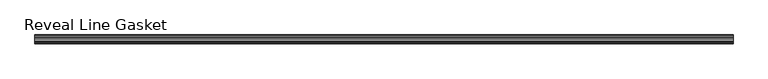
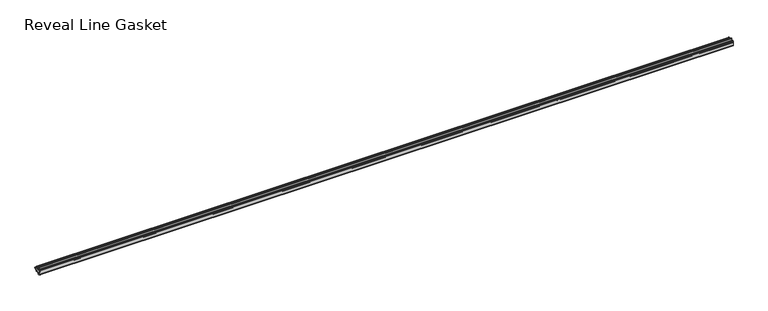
"""IFC4 building model written with IfcOpenShell, lengths in millimetres: proxy geometry, Accessories-Teknion-FHGR-AI_Healthcare-Reveal_Line_Gasket(Horizontal)-R2022 : Reveal Line Gasket."""

import ifcopenshell
import ifcopenshell.guid

model = None  # the IFC model being written
_history = None  # IfcOwnerHistory: only IFC2X3 demands one
_inside = {}  # id of a spatial element -> (the spatial element, [elements in it])
_under = {}  # id of a project, library or spatial element -> (it, [spatial elements below it])
_declared = {}  # id of a project -> (the project, [libraries it declares])
_typed = {}  # id of a type object -> (the type object, [elements of that type])
_made_of = {}  # id of a material, layer set ... -> (it, [elements and type objects made of it])


def new_model(schema):
    """Start an empty IFC model of exactly this schema.

    Asked for "IFC4X3", IfcOpenShell would pick the latest addendum, in which some entities
    have other attributes; the version numbers below select the first issue.
    IFC2X3 requires an IfcOwnerHistory on every rooted entity: one is made here for all.
    """
    global model, _history
    if schema == "IFC4X3":
        model = ifcopenshell.file(schema_version=(4, 3, 0, 0))
    else:
        model = ifcopenshell.file(schema=schema)
    _inside.clear()
    _under.clear()
    _declared.clear()
    _typed.clear()
    _made_of.clear()
    _history = None
    if model.schema == "IFC2X3":
        org = make("IfcOrganization", Name="unknown")
        user = make(
            "IfcPersonAndOrganization",
            ThePerson=make("IfcPerson", FamilyName="unknown"),
            TheOrganization=org,
        )
        app = make(
            "IfcApplication",
            ApplicationDeveloper=org,
            Version="unknown",
            ApplicationFullName="unknown",
            ApplicationIdentifier="unknown",
        )
        _history = make(
            "IfcOwnerHistory",
            OwningUser=user,
            OwningApplication=app,
            ChangeAction="ADDED",
            CreationDate=0,
        )
    return model


def make(cls, **values):
    """One entity of the class cls with the attributes given. An attribute that is None is left unset."""
    return model.create_entity(
        cls, **{name: value for name, value in values.items() if value is not None}
    )


def rooted(cls, **values):
    """An entity with a GlobalId (a new one), such as an element, a storey or a relation."""
    return make(cls, GlobalId=ifcopenshell.guid.new(), OwnerHistory=_history, **values)


def si_unit(unit_type, name, prefix=None):
    """IfcSIUnit, for example si_unit("LENGTHUNIT", "METRE", prefix="MILLI")."""
    return make("IfcSIUnit", UnitType=unit_type, Prefix=prefix, Name=name)


def assignment(units):
    """IfcUnitAssignment: the units of a project."""
    return None if units is None else make("IfcUnitAssignment", Units=units)


def point(xyz):
    """IfcCartesianPoint."""
    return None if xyz is None else make("IfcCartesianPoint", Coordinates=xyz)


def direction(xyz):
    """IfcDirection."""
    return None if xyz is None else make("IfcDirection", DirectionRatios=xyz)


def frame(location, z_axis=None, x_axis=None):
    """IfcAxis2Placement3D, a coordinate frame: its origin and axes. An axis left out is left unset."""
    return make(
        "IfcAxis2Placement3D",
        Location=point(location),
        Axis=direction(z_axis),
        RefDirection=direction(x_axis),
    )


def frame_2d(location, x_axis=None):
    """IfcAxis2Placement2D, a coordinate frame in the plane: its origin and x axis."""
    return make(
        "IfcAxis2Placement2D", Location=point(location), RefDirection=direction(x_axis)
    )


def origin():
    """The frame at (0, 0, 0) with its axes left unset."""
    return frame((0.0, 0.0, 0.0))


def place(relative_to, where):
    """IfcLocalPlacement: puts the frame where relative to a parent placement (None: the world)."""
    return make(
        "IfcLocalPlacement", PlacementRelTo=relative_to, RelativePlacement=where
    )


def context(
    kind, dimensions, precision=None, world=None, true_north=None, identifier=None
):
    """IfcGeometricRepresentationContext, for example the 3D "Model" context."""
    return make(
        "IfcGeometricRepresentationContext",
        ContextIdentifier=identifier,
        ContextType=kind,
        CoordinateSpaceDimension=dimensions,
        Precision=precision,
        WorldCoordinateSystem=world,
        TrueNorth=true_north,
    )


def project(units=None, contexts=None):
    """IfcProject with its units and contexts."""
    return rooted(
        "IfcProject",
        Name="project",
        RepresentationContexts=contexts,
        UnitsInContext=assignment(units),
    )


def spatial(cls, under=None, at=None, **own):
    """A site, building, storey or space (cls), placed at a placement, below another one or the project."""
    s = rooted(cls, ObjectPlacement=at, **own)
    if under is not None:
        _under.setdefault(under.id(), (under, []))[1].append(s)
    return s


def polyline(points):
    """IfcPolyline through the points."""
    return make("IfcPolyline", Points=[point(p) for p in points])


def circle_curve(where, radius):
    """IfcCircle in the frame where."""
    return make("IfcCircle", Position=where, Radius=radius)


def trimmed(basis, trim1, trim2, sense, master):
    """IfcTrimmedCurve: the piece of a basis curve between two trims."""
    return make(
        "IfcTrimmedCurve",
        BasisCurve=basis,
        Trim1=trim1,
        Trim2=trim2,
        SenseAgreement=sense,
        MasterRepresentation=master,
    )


def segment(curve, same_sense, transition):
    """IfcCompositeCurveSegment."""
    return make(
        "IfcCompositeCurveSegment",
        Transition=transition,
        SameSense=same_sense,
        ParentCurve=curve,
    )


def composite_curve(segments, self_intersect=None):
    """IfcCompositeCurve: segments joined end to end."""
    return make("IfcCompositeCurve", Segments=segments, SelfIntersect=self_intersect)


def outline(outer, holes=None, kind="AREA"):
    """IfcArbitraryClosedProfileDef: a profile drawn as a closed curve; with holes, ...WithVoids."""
    if holes is None:
        return make("IfcArbitraryClosedProfileDef", ProfileType=kind, OuterCurve=outer)
    return make(
        "IfcArbitraryProfileDefWithVoids",
        ProfileType=kind,
        OuterCurve=outer,
        InnerCurves=holes,
    )


def extrude(swept, where, along, depth):
    """IfcExtrudedAreaSolid: the profile swept, set in the frame where, extruded along a direction by depth."""
    return make(
        "IfcExtrudedAreaSolid",
        SweptArea=swept,
        Position=where,
        ExtrudedDirection=direction(along),
        Depth=depth,
    )


def shape(context_of_items, identifier, shape_type, items):
    """IfcShapeRepresentation: the items that make up one representation, for example the "Body"."""
    return make(
        "IfcShapeRepresentation",
        ContextOfItems=context_of_items,
        RepresentationIdentifier=identifier,
        RepresentationType=shape_type,
        Items=items,
    )


def source(mapping_origin, context_of_items, identifier, shape_type, items):
    """IfcRepresentationMap: a shape defined once, which mapped items show again and again."""
    return make(
        "IfcRepresentationMap",
        MappingOrigin=mapping_origin,
        MappedRepresentation=shape(context_of_items, identifier, shape_type, items),
    )


def transform(
    local_origin,
    x_axis=None,
    y_axis=None,
    z_axis=None,
    scale=None,
    scale2=None,
    scale3=None,
    uniform=True,
):
    """IfcCartesianTransformationOperator3D, or its non-uniform kind. x_axis, y_axis, z_axis: its Axis1, 2, 3."""
    if uniform:
        return make(
            "IfcCartesianTransformationOperator3D",
            Axis1=direction(x_axis),
            Axis2=direction(y_axis),
            LocalOrigin=point(local_origin),
            Scale=scale,
            Axis3=direction(z_axis),
        )
    return make(
        "IfcCartesianTransformationOperator3DnonUniform",
        Axis1=direction(x_axis),
        Axis2=direction(y_axis),
        LocalOrigin=point(local_origin),
        Scale=scale,
        Axis3=direction(z_axis),
        Scale2=scale2,
        Scale3=scale3,
    )


def mapped(mapping_source, mapping_target):
    """IfcMappedItem: shows the shape of a source again, moved by a transform."""
    return make(
        "IfcMappedItem", MappingSource=mapping_source, MappingTarget=mapping_target
    )


def made_of(thing, what):
    """Note that an element or type object is made of a material, layer set ...; save() writes the relation."""
    if what is not None:
        _made_of.setdefault(what.id(), (what, []))[1].append(thing)
    return thing


def element(
    cls,
    number,
    at=None,
    inside=None,
    cuts=None,
    type_object=None,
    material=None,
    context=None,
    identifier="Body",
    shape_type=None,
    held_by="IfcProductDefinitionShape",
    body=None,
    shapes=None,
    **own,
):
    """One element of the class cls, such as IfcWall. Its Tag is "e" and its number.

    at: its placement. inside: the storey or other place that contains it. cuts: it is an
    opening in that element (IfcRelVoidsElement). A single representation is given by context,
    identifier, shape_type and body (its items); several are given by shapes. held_by: the class
    of the entity that holds the representations. save() writes the other relations.
    """
    e = rooted(cls, Tag="e%d" % number, ObjectPlacement=at, **own)
    if body is not None:
        shapes = [shape(context, identifier, shape_type, body)]
    if shapes is not None:
        e.Representation = make(held_by, Representations=shapes)
    if inside is not None:
        _inside.setdefault(inside.id(), (inside, []))[1].append(e)
    if cuts is not None:
        rooted(
            "IfcRelVoidsElement", RelatingBuildingElement=cuts, RelatedOpeningElement=e
        )
    if type_object is not None:
        _typed.setdefault(type_object.id(), (type_object, []))[1].append(e)
    return made_of(e, material)


def aggregate(whole, parts):
    """IfcRelAggregates: a whole, such as a stair, and the parts it consists of."""
    return rooted("IfcRelAggregates", RelatingObject=whole, RelatedObjects=parts)


def save(model, path):
    """Write the relations noted so far, then the file.

    IfcRelAggregates (storeys below a building ...), IfcRelContainedInSpatialStructure (elements
    in a storey), IfcRelDefinesByType, IfcRelAssociatesMaterial and IfcRelDeclares: one each for
    every whole, place, type object, material and project.
    """
    for whole, parts in _under.values():
        aggregate(whole, parts)
    for where, things in _inside.values():
        rooted(
            "IfcRelContainedInSpatialStructure",
            RelatedElements=things,
            RelatingStructure=where,
        )
    for kind, things in _typed.values():
        rooted("IfcRelDefinesByType", RelatedObjects=things, RelatingType=kind)
    for what, things in _made_of.values():
        rooted("IfcRelAssociatesMaterial", RelatedObjects=things, RelatingMaterial=what)
    for by, libraries in _declared.values():
        rooted("IfcRelDeclares", RelatingContext=by, RelatedDefinitions=libraries)
    model.write(path)


def reveal_line_gasket_eccdcd19(model_context):
    return source(origin(), model_context, "Body", "SweptSolid", [
        extrude(outline(composite_curve([segment(polyline([(-7.6326998, 1603.2), (-7.4091917, 1604.1554927), (-6.8813059, 1605.0884684)]), True, "CONTINUOUS"), segment(trimmed(circle_curve(frame_2d((-6.5243141, 1604.8864793)), 0.4101739), [point((-6.8813059, 1605.0884684))], [point((-6.1246704, 1604.7941347))], False, "CARTESIAN"), True, "CONTINUOUS"), segment(polyline([(-6.1246704, 1604.7941347), (-6.3626997, 1603.0979086), (-6.3626997, 1601.0654527)]), True, "CONTINUOUS"), segment(trimmed(circle_curve(frame_2d((-5.6959605, 1601.4819258)), 0.786124), [point((-6.3626997, 1601.0654527))], [point((-5.0926996, 1600.977875))], True, "CARTESIAN"), True, "CONTINUOUS"), segment(polyline([(-5.0926996, 1600.977875), (-0.7492996, 1600.977875), (-3.7293824, 1606.1395295)]), True, "CONTINUOUS"), segment(trimmed(circle_curve(frame_2d((-3.3132479, 1606.2049761)), 0.4212495), [point((-3.7293824, 1606.1395295))], [point((-3.0485022, 1606.5326358))], False, "CARTESIAN"), True, "CONTINUOUS"), segment(polyline([(-3.0485022, 1606.5326358), (0.5742594, 1600.977875), (4.8262978, 1600.977875), (3.1660374, 1603.8535297)]), True, "CONTINUOUS"), segment(trimmed(circle_curve(frame_2d((3.5978728, 1603.9118855)), 0.4357605), [point((3.1660374, 1603.8535297))], [point((3.864328, 1604.2566881))], False, "CARTESIAN"), True, "CONTINUOUS"), segment(polyline([(3.864328, 1604.2566881), (6.1944059, 1600.977875), (7.6326998, 1600.977875), (7.6326998, 1599.422125), (6.1944059, 1599.422125), (3.864328, 1596.1433119)]), True, "CONTINUOUS"), segment(trimmed(circle_curve(frame_2d((3.5978728, 1596.4881145)), 0.4357605), [point((3.864328, 1596.1433119))], [point((3.1660374, 1596.5464703))], False, "CARTESIAN"), True, "CONTINUOUS"), segment(polyline([(3.1660374, 1596.5464703), (4.8262978, 1599.422125), (0.5742594, 1599.422125), (-3.0485022, 1593.8673642)]), True, "CONTINUOUS"), segment(trimmed(circle_curve(frame_2d((-3.3132479, 1594.1950239)), 0.4212495), [point((-3.0485022, 1593.8673642))], [point((-3.7293824, 1594.2604705))], False, "CARTESIAN"), True, "CONTINUOUS"), segment(polyline([(-3.7293824, 1594.2604705), (-0.7492996, 1599.422125), (-5.0926996, 1599.422125)]), True, "CONTINUOUS"), segment(trimmed(circle_curve(frame_2d((-5.6959605, 1598.9180742)), 0.786124), [point((-5.0926996, 1599.422125))], [point((-6.3626997, 1599.3345473))], True, "CARTESIAN"), True, "CONTINUOUS"), segment(polyline([(-6.3626997, 1599.3345473), (-6.3626997, 1597.3020914), (-6.1246704, 1595.6058653)]), True, "CONTINUOUS"), segment(trimmed(circle_curve(frame_2d((-6.5243141, 1595.5135207)), 0.4101739), [point((-6.1246704, 1595.6058653))], [point((-6.8813059, 1595.3115316))], False, "CARTESIAN"), True, "CONTINUOUS"), segment(polyline([(-6.8813059, 1595.3115316), (-7.4091917, 1596.2445073), (-7.6326998, 1597.2), (-7.6326998, 1603.2)]), True, "CONTINUOUS")], self_intersect=False)), frame((-603.2666441, 0.0, 0.0), z_axis=(1.0, 0.0, 0.0), x_axis=(0.0, 1.0, 0.0)), (0.0, 0.0, 1.0), 1206.5332882),
    ])


if __name__ == "__main__":
    model = new_model("IFC4")
    model_context = context("Model", 3, world=origin())
    ifc_project = project(units=[si_unit("LENGTHUNIT", "METRE", prefix="MILLI")], contexts=[model_context])
    site = spatial("IfcSite", under=ifc_project)
    building = spatial("IfcBuilding", under=site)
    placement = place(None, origin())
    reveal_line_gasket_shape = reveal_line_gasket_eccdcd19(model_context)
    element("IfcBuildingElementProxy", 1, Name="Accessories-Teknion-FHGR-AI_Healthcare-Reveal_Line_Gasket(Horizontal)-R2022 : Reveal Line Gasket", ObjectType="Accessories-Teknion-FHGR-AI_Healthcare-Reveal_Line_Gasket(Horizontal)-R2022 : Reveal Line Gasket", at=placement, inside=building, context=model_context, shape_type="MappedRepresentation", body=[
        mapped(reveal_line_gasket_shape, transform((0.0, 0.0, 0.0), x_axis=(1.0, 0.0, 0.0), y_axis=(0.0, 1.0, 0.0), z_axis=(0.0, 0.0, 1.0))),
    ])
    save(model, "model.ifc")
